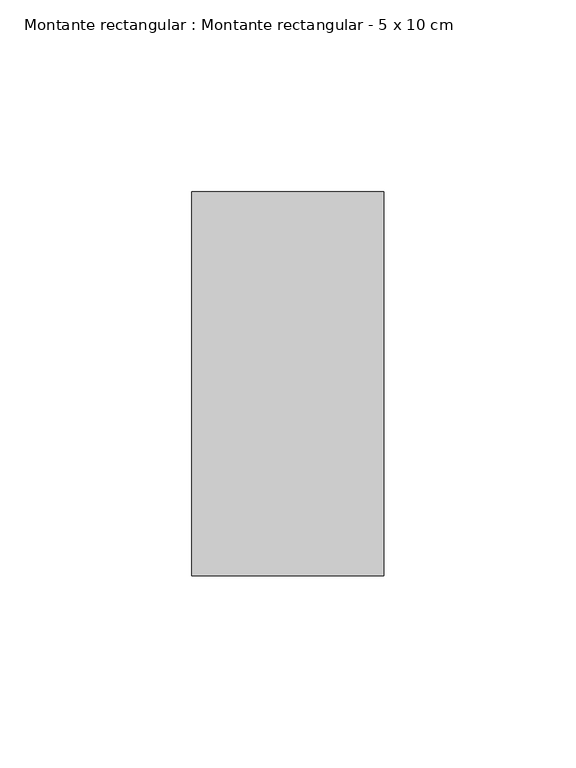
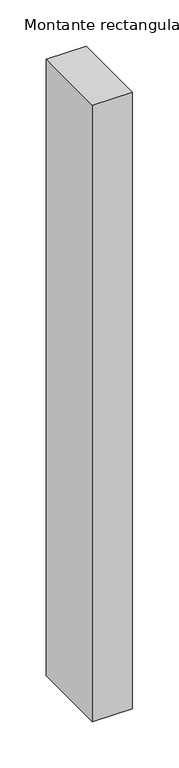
"""IFC4 building model written with IfcOpenShell, lengths in millimetres: member geometry, Montante rectangular : Montante rectangular - 5 x 10 cm."""

from ifc_helpers import new_model, si_unit, frame, origin, place, context, project, spatial, polyline, outline, extrude, source, transform, mapped, element, save


def montante_rectangular_montante_rectangular_5_x_10_cm_a602897c(model_context):
    return source(origin(), model_context, "Body", "SweptSolid", [
        extrude(outline(polyline([(0.0, 50.0), (0.0, -50.0), (-50.0, -50.0), (-50.0, 50.0), (0.0, 50.0)])), frame((0.0, 0.0, -814.9389156), z_axis=(0.0, 0.0, 1.0), x_axis=(1.0, 0.0, 0.0)), (0.0, 0.0, 1.0), 814.9389156),
    ])


if __name__ == "__main__":
    model = new_model("IFC4")
    model_context = context("Model", 3, world=origin())
    ifc_project = project(units=[si_unit("LENGTHUNIT", "METRE", prefix="MILLI")], contexts=[model_context])
    site = spatial("IfcSite", under=ifc_project)
    building = spatial("IfcBuilding", under=site)
    placement = place(None, origin())
    montante_rectangular_montante_rectangular_5_x_10_cm_shape = montante_rectangular_montante_rectangular_5_x_10_cm_a602897c(model_context)
    element("IfcMember", 1, ObjectType="Montante rectangular : Montante rectangular - 5 x 10 cm", at=placement, inside=building, context=model_context, shape_type="MappedRepresentation", body=[
        mapped(montante_rectangular_montante_rectangular_5_x_10_cm_shape, transform((0.0, 0.0, 0.0), x_axis=(1.0, 0.0, 0.0), y_axis=(0.0, 1.0, 0.0), z_axis=(0.0, 0.0, 1.0))),
    ])
    save(model, "model.ifc")
